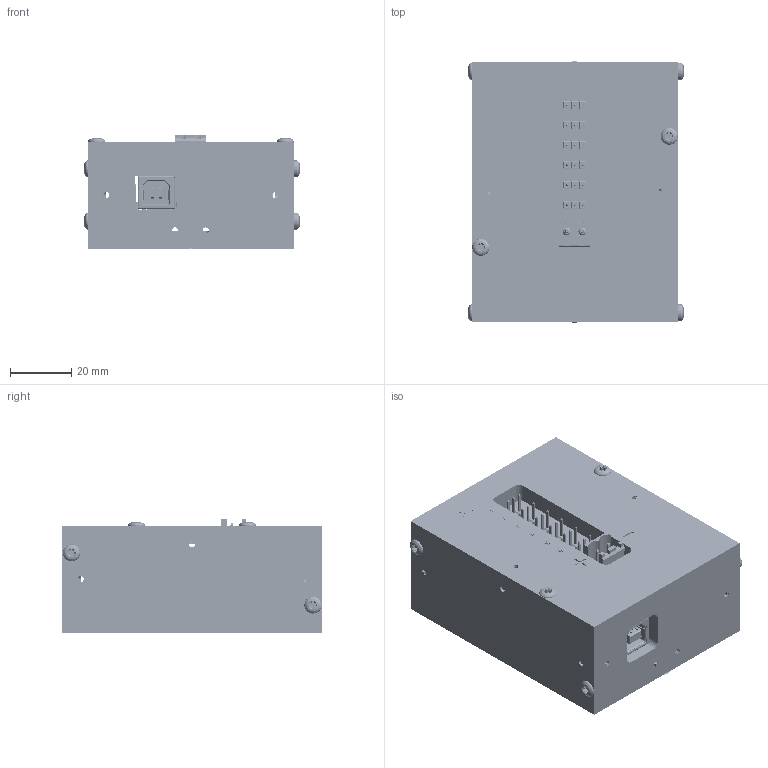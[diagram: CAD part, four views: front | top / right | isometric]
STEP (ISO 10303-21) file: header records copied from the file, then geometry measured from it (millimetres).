
FILE_DESCRIPTION(/* description */ (''),/* implementation_level */ '2;1');
FILE_NAME(/* name */ '/Users/leslieshaw/Desktop/arduino_controller_3D.step',/* time_stamp */ '2020-03-24T11:10:00-07:00',/* author */ (''),/* organization */ (''),/* preprocessor_version */ 'ST-DEVELOPER v18',/* originating_system */ 'Autodesk Translation Framework v8.12.0.6',/* authorisation */ '');
FILE_SCHEMA (('AUTOMOTIVE_DESIGN { 1 0 10303 214 3 1 1 }'));
Products named in the file (45): arduino_controller; arduino uno; unoboard blue; USB type b; USB SHELL; USB core; usb btm contact; usb top contact; power jack; 47uf CAP Dcase; crystal; nano - reg; dip28 (1); dip28; dip socket pin; 2pin_header__02; atmega16u2; led; 8 PORT HEADER; 6 PORT HEADER; 10 PORT HEADER; ATMEL328P; 102 RESISTOR PACK; 103 RESISTOR PACK; 220 RESISTOR PACK; 16mhz crystal - measured; PADS001; ssot3; mf-msmf050-2; lmv358; 603 cap on pad; lp2985dgkr; cd1206 diode; 603 resistor; blm21; m7 diode; MLC0603; RESET BUTTON; RESET CORE; RESET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
Assembly tree (108 placements, depth 4):
  arduino_controller
    arduino uno
      unoboard blue
      47uf CAP Dcase  x2
      USB type b
        USB SHELL
        USB core
        usb top contact  x2
        usb btm contact  x2
      power jack
      crystal
      2pin_header__02  x6
      nano - reg
      led  x4
      dip28 (1)
        dip28
        dip socket pin  x28
      atmega16u2
      8 PORT HEADER  x2
      6 PORT HEADER
      10 PORT HEADER
      ATMEL328P
      102 RESISTOR PACK  x2
      103 RESISTOR PACK
      220 RESISTOR PACK
      16mhz crystal - measured
      PADS001
      603 cap on pad  x8
      ssot3
      mf-msmf050-2
      lmv358
      lp2985dgkr
      cd1206 diode  x2
      603 resistor
      blm21
      m7 diode
      MLC0603  x2
      RESET BUTTON
        RESET CORE
        RESET
    Pin Header 1x3 TH Pitch 2.54mm  x6
    User Library-Phoenix Contact MSTB-2_5_3G
    90925A110_PAN HEAD TORX DRIVE SCREW FOR SHEET METAL  x6
    92703A150_STAINLESS STEEL TORX FLAT HEAD SCREWS  x6
    Component1
Bounding box: 70.23 x 85.32 x 37.3 mm (x, y, z)
Volume: 118815.3 mm3; surface area: 78700.8 mm2
Topology: 203 solids, 221 shells, 10538 faces, 28265 edges, 18562 vertices
Faces by surface type: plane 6258, cylinder 2236, bspline 1394, torus 402, cone 200, sphere 48
Full cylindrical faces by diameter (mm): 0.3 x1, 0.4 x1, 0.5 x32, 0.6 x29, 0.8 x82, 1 x11, 1.35 x56, 1.7 x56, 2 x4, 2.083 x60, 2.35 x90, 2.5 x4, 2.54 x2, 2.845 x54, 3 x103, 3.175 x11, 3.2 x1, 3.6 x1, 5.563 x6, 6.3 x5
Entity records: 330885 total; most frequent: CARTESIAN_POINT 144290, ORIENTED_EDGE 40922, DIRECTION 34073, EDGE_CURVE 20469, LINE 14041, VECTOR 14041, VERTEX_POINT 13534, AXIS2_PLACEMENT_3D 10016
